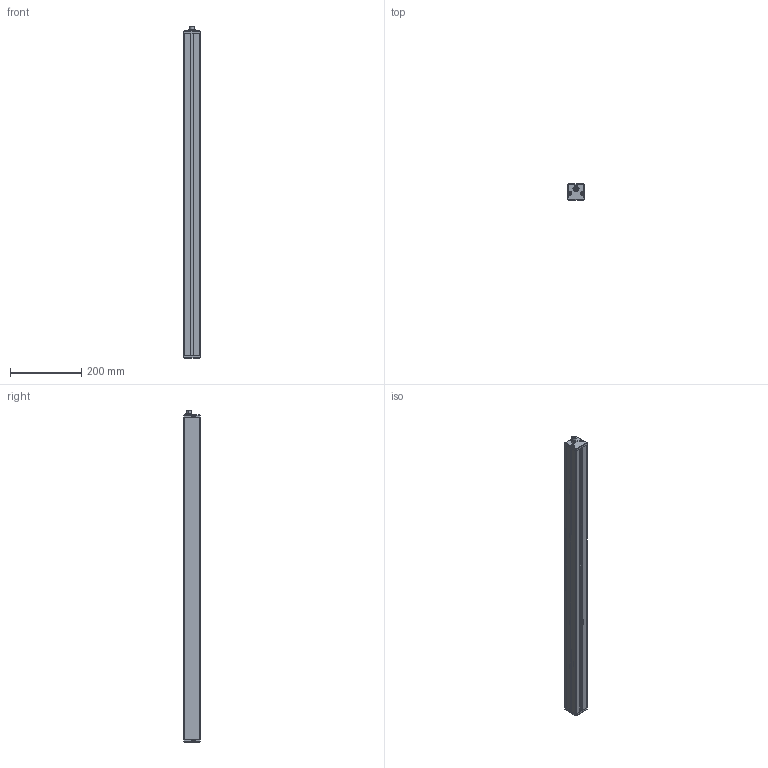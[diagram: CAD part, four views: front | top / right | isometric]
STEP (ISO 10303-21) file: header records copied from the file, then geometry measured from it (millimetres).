
FILE_DESCRIPTION (( 'STEP AP214' ), '1' );
FILE_NAME ('NBAR36.STEP', '2012-01-13T15:35:47', ( 'JRLEDS' ), ( '' ), 'SwSTEP 2.0', 'SolidWorks 2010', '' );
FILE_SCHEMA (( 'AUTOMOTIVE_DESIGN' ));
Length unit declared in the file: millimetre
Products named in the file (8): Embout ALU; PROT-NBAR36; screw_din_912-m5x0_8-10-8_8_Default; Embout percé ALU; SW3DPS-FISCHER_DBP_103_Z053-130-DEFAULT; CIR6LED; NBAR36; PROF-NBAR36
Assembly tree (15 placements, depth 2):
  NBAR36
    PROF-NBAR36
    Embout percé ALU
    CIR6LED  x6
    PROT-NBAR36
    screw_din_912-m5x0_8-10-8_8_Default  x4
    SW3DPS-FISCHER_DBP_103_Z053-130-DEFAULT
    Embout ALU
Bounding box: 45.1 x 45 x 930 mm (x, y, z)
Volume: 606660.3 mm3; surface area: 575575.3 mm2
Topology: 51 solids, 51 shells, 528 faces, 1181 edges, 754 vertices
Faces by surface type: plane 327, cylinder 163, cone 16, torus 14, sphere 8
Entity records: 9108 total; most frequent: DIRECTION 1306, CARTESIAN_POINT 1279, ORIENTED_EDGE 1180, EDGE_CURVE 590, AXIS2_PLACEMENT_3D 458, LINE 390, VECTOR 390, VERTEX_POINT 379
